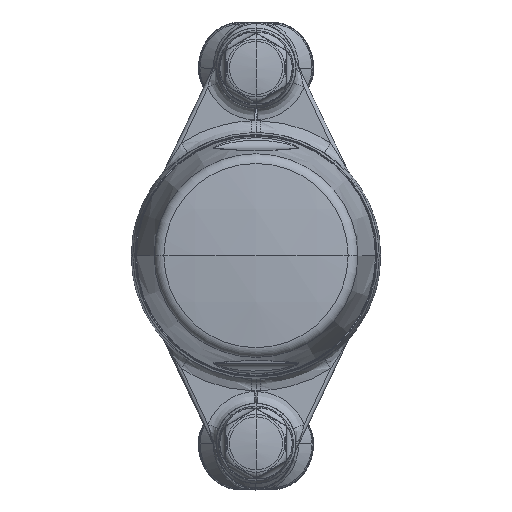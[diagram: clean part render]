
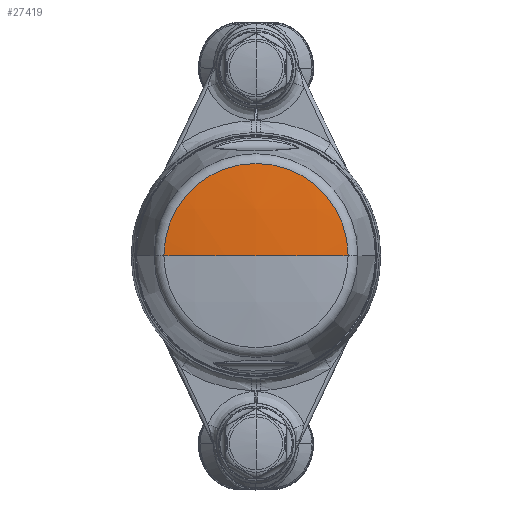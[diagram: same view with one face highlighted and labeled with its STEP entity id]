
A CAD part, top view. The second image highlights one B-rep face of the part: STEP entity #27419.
In plain terms, the highlighted spherical face has radius 200 mm.
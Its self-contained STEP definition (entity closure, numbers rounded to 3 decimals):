
#670 = CARTESIAN_POINT ( 'NONE',  ( -24.283, 0., 40.272 ) ) ;
#2298 = VERTEX_POINT ( 'NONE', #20861 ) ;
#2553 = DIRECTION ( 'NONE',  ( 0., 0., 1. ) ) ;
#4466 = VERTEX_POINT ( 'NONE', #49661 ) ;
#7151 = CARTESIAN_POINT ( 'NONE',  ( 0., 0., -158.249 ) ) ;
#9384 = CARTESIAN_POINT ( 'NONE',  ( 0., 0., -158.249 ) ) ;
#11284 = DIRECTION ( 'NONE',  ( 0., -1., 0. ) ) ;
#16478 = ORIENTED_EDGE ( 'NONE', *, *, #38183, .T. ) ;
#16806 = FACE_OUTER_BOUND ( 'NONE', #46040, .T. ) ;
#17611 = SPHERICAL_SURFACE ( 'NONE', #52031, 200. ) ;
#20861 = CARTESIAN_POINT ( 'NONE',  ( 0., 0., 41.751 ) ) ;
#22813 = DIRECTION ( 'NONE',  ( 1., 0., 0. ) ) ;
#26112 = DIRECTION ( 'NONE',  ( 1., 0., 0. ) ) ;
#27088 = AXIS2_PLACEMENT_3D ( 'NONE', #7151, #11284, #22813 ) ;
#27419 = ADVANCED_FACE ( 'NONE', ( #16806 ), #17611, .T. ) ;
#28384 = DIRECTION ( 'NONE',  ( -1., 0., 0. ) ) ;
#29261 = CARTESIAN_POINT ( 'NONE',  ( 0., 0., -158.249 ) ) ;
#29265 = ORIENTED_EDGE ( 'NONE', *, *, #53249, .F. ) ;
#29719 = CIRCLE ( 'NONE', #27088, 200. ) ;
#30242 = DIRECTION ( 'NONE',  ( 0., -1., 0. ) ) ;
#31125 = AXIS2_PLACEMENT_3D ( 'NONE', #44132, #2553, #28384 ) ;
#37538 = ORIENTED_EDGE ( 'NONE', *, *, #37954, .T. ) ;
#37954 = EDGE_CURVE ( 'NONE', #2298, #4466, #39069, .T. ) ;
#38183 = EDGE_CURVE ( 'NONE', #4466, #45965, #47874, .T. ) ;
#38354 = DIRECTION ( 'NONE',  ( 0., 1., 0. ) ) ;
#39069 = CIRCLE ( 'NONE', #46997, 200. ) ;
#44132 = CARTESIAN_POINT ( 'NONE',  ( 0., 0., 40.272 ) ) ;
#45965 = VERTEX_POINT ( 'NONE', #670 ) ;
#46040 = EDGE_LOOP ( 'NONE', ( #29265, #37538, #16478 ) ) ;
#46997 = AXIS2_PLACEMENT_3D ( 'NONE', #29261, #38354, #50237 ) ;
#47874 = CIRCLE ( 'NONE', #31125, 24.283 ) ;
#49661 = CARTESIAN_POINT ( 'NONE',  ( 24.283, 0., 40.272 ) ) ;
#50237 = DIRECTION ( 'NONE',  ( -1., 0., 0. ) ) ;
#52031 = AXIS2_PLACEMENT_3D ( 'NONE', #9384, #30242, #26112 ) ;
#53249 = EDGE_CURVE ( 'NONE', #2298, #45965, #29719, .T. ) ;
